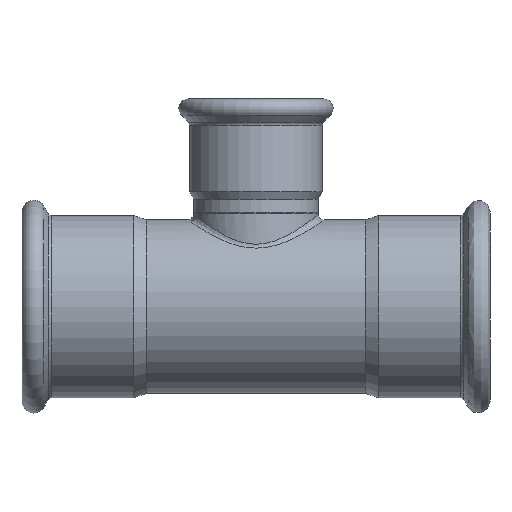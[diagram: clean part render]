
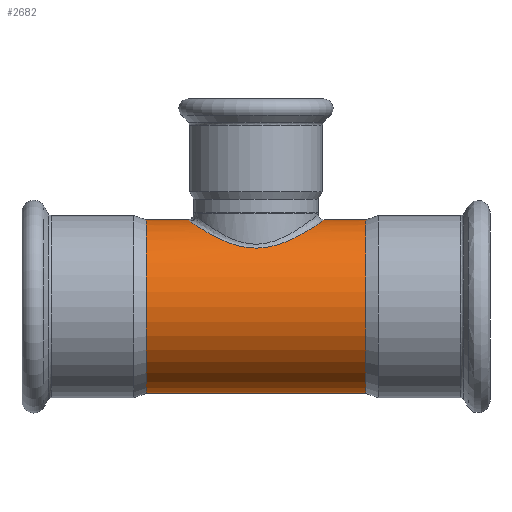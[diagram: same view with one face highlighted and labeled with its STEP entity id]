
A CAD part, front view. The second image highlights one B-rep face of the part: STEP entity #2682.
In plain terms, the highlighted cylindrical face has radius 44.45 mm (diameter 88.9 mm), a full revolution.
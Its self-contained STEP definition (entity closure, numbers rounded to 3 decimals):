
#2445=CARTESIAN_POINT('',(0.,32.787,30.013));
#2446=VERTEX_POINT('',#2445);
#2543=CARTESIAN_POINT('',(0.,32.787,30.013));
#2544=CARTESIAN_POINT('',(-1.024,32.787,30.013));
#2545=CARTESIAN_POINT('',(-2.389,32.731,30.075));
#2546=CARTESIAN_POINT('',(-4.249,32.552,30.268));
#2547=CARTESIAN_POINT('',(-5.921,32.333,30.503));
#2548=CARTESIAN_POINT('',(-8.554,31.843,31.019));
#2549=CARTESIAN_POINT('',(-11.887,30.911,31.958));
#2550=CARTESIAN_POINT('',(-15.138,29.617,33.163));
#2551=CARTESIAN_POINT('',(-17.938,28.196,34.378));
#2552=CARTESIAN_POINT('',(-20.06,26.898,35.4));
#2553=CARTESIAN_POINT('',(-22.329,25.297,36.569));
#2554=CARTESIAN_POINT('',(-24.213,23.726,37.61));
#2555=CARTESIAN_POINT('',(-25.948,22.027,38.618));
#2556=CARTESIAN_POINT('',(-27.596,20.228,39.605));
#2557=CARTESIAN_POINT('',(-29.48,17.797,40.777));
#2558=CARTESIAN_POINT('',(-30.845,15.549,41.66));
#2559=CARTESIAN_POINT('',(-31.704,13.901,42.224));
#2560=CARTESIAN_POINT('',(-32.247,12.781,42.583));
#2561=CARTESIAN_POINT('',(-33.163,10.611,43.195));
#2562=CARTESIAN_POINT('',(-33.889,8.342,43.687));
#2563=CARTESIAN_POINT('',(-34.385,6.175,44.027));
#2564=CARTESIAN_POINT('',(-34.611,4.923,44.182));
#2565=CARTESIAN_POINT('',(-34.901,2.868,44.381));
#2566=CARTESIAN_POINT('',(-35.03,0.789,44.471));
#2567=CARTESIAN_POINT('',(-34.969,-1.771,44.429));
#2568=CARTESIAN_POINT('',(-34.818,-3.523,44.324));
#2569=CARTESIAN_POINT('',(-34.605,-4.944,44.178));
#2570=CARTESIAN_POINT('',(-34.378,-6.196,44.022));
#2571=CARTESIAN_POINT('',(-34.069,-7.592,43.81));
#2572=CARTESIAN_POINT('',(-33.428,-9.827,43.374));
#2573=CARTESIAN_POINT('',(-32.61,-11.997,42.823));
#2574=CARTESIAN_POINT('',(-31.459,-14.441,42.061));
#2575=CARTESIAN_POINT('',(-30.032,-16.949,41.131));
#2576=CARTESIAN_POINT('',(-28.151,-19.57,39.944));
#2577=CARTESIAN_POINT('',(-26.351,-21.617,38.855));
#2578=CARTESIAN_POINT('',(-24.907,-23.053,38.012));
#2579=CARTESIAN_POINT('',(-23.355,-24.456,37.133));
#2580=CARTESIAN_POINT('',(-21.648,-25.8,36.211));
#2581=CARTESIAN_POINT('',(-19.609,-27.185,35.178));
#2582=CARTESIAN_POINT('',(-17.651,-28.345,34.251));
#2583=CARTESIAN_POINT('',(-15.41,-29.471,33.286));
#2584=CARTESIAN_POINT('',(-13.072,-30.446,32.393));
#2585=CARTESIAN_POINT('',(-10.619,-31.274,31.593));
#2586=CARTESIAN_POINT('',(-8.393,-31.852,31.006));
#2587=CARTESIAN_POINT('',(-6.65,-32.198,30.645));
#2588=CARTESIAN_POINT('',(-3.995,-32.626,30.191));
#2589=CARTESIAN_POINT('',(-0.014,-32.922,29.864));
#2590=CARTESIAN_POINT('',(4.653,-32.579,30.244));
#2591=CARTESIAN_POINT('',(8.156,-31.917,30.941));
#2592=CARTESIAN_POINT('',(11.563,-31.019,31.85));
#2593=CARTESIAN_POINT('',(14.692,-29.833,32.976));
#2594=CARTESIAN_POINT('',(17.666,-28.337,34.258));
#2595=CARTESIAN_POINT('',(20.509,-26.65,35.605));
#2596=CARTESIAN_POINT('',(23.141,-24.686,37.004));
#2597=CARTESIAN_POINT('',(25.532,-22.467,38.371));
#2598=CARTESIAN_POINT('',(26.916,-20.984,39.196));
#2599=CARTESIAN_POINT('',(28.479,-19.113,40.151));
#2600=CARTESIAN_POINT('',(29.917,-17.109,41.058));
#2601=CARTESIAN_POINT('',(31.372,-14.605,42.003));
#2602=CARTESIAN_POINT('',(32.362,-12.55,42.659));
#2603=CARTESIAN_POINT('',(33.292,-10.221,43.282));
#2604=CARTESIAN_POINT('',(34.292,-6.986,43.962));
#2605=CARTESIAN_POINT('',(35.035,-2.573,44.474));
#2606=CARTESIAN_POINT('',(35.036,2.143,44.475));
#2607=CARTESIAN_POINT('',(34.539,5.518,44.132));
#2608=CARTESIAN_POINT('',(33.775,8.814,43.61));
#2609=CARTESIAN_POINT('',(32.813,11.619,42.957));
#2610=CARTESIAN_POINT('',(31.541,14.253,42.115));
#2611=CARTESIAN_POINT('',(30.735,15.7,41.59));
#2612=CARTESIAN_POINT('',(29.456,17.804,40.765));
#2613=CARTESIAN_POINT('',(26.757,21.421,39.07));
#2614=CARTESIAN_POINT('',(23.284,24.627,37.06));
#2615=CARTESIAN_POINT('',(20.284,26.739,35.516));
#2616=CARTESIAN_POINT('',(18.197,28.051,34.498));
#2617=CARTESIAN_POINT('',(15.421,29.506,33.267));
#2618=CARTESIAN_POINT('',(11.864,30.918,31.951));
#2619=CARTESIAN_POINT('',(8.08,31.975,30.886));
#2620=CARTESIAN_POINT('',(4.098,32.636,30.179));
#2621=CARTESIAN_POINT('',(1.365,32.787,30.013));
#2622=CARTESIAN_POINT('',(0.,32.787,30.013));
#2623=CARTESIAN_POINT('',(0.,32.787,30.013));
#2624=CARTESIAN_POINT('',(0.,32.787,30.013));
#2625=CARTESIAN_POINT('',(0.,32.787,30.013));
#2626=B_SPLINE_CURVE_WITH_KNOTS('',3,(#2543,#2544,#2545,#2546,#2547,#2548,#2549,#2550,#2551,#2552,#2553,#2554,#2555,#2556,#2557,#2558,#2559,#2560,#2561,#2562,#2563,#2564,#2565,#2566,#2567,#2568,#2569,#2570,#2571,#2572,#2573,#2574,#2575,#2576,#2577,#2578,#2579,#2580,#2581,#2582,#2583,#2584,#2585,#2586,#2587,#2588,#2589,#2590,#2591,#2592,#2593,#2594,#2595,#2596,#2597,#2598,#2599,#2600,#2601,#2602,#2603,#2604,#2605,#2606,#2607,#2608,#2609,#2610,#2611,#2612,#2613,#2614,#2615,#2616,#2617,#2618,#2619,#2620,#2621,#2622,#2623,#2624,#2625),.UNSPECIFIED.,.T.,.U.,(4,1,1,1,1,1,1,1,1,1,1,1,1,1,1,1,1,1,1,1,1,1,1,1,1,1,1,1,1,1,1,1,1,1,1,1,1,1,1,1,1,1,1,1,1,1,1,1,1,1,1,1,1,1,1,1,1,1,1,1,1,1,1,1,1,1,1,1,1,1,1,1,1,1,1,1,1,3,4),(-20.281,-20.01,-19.919,-19.783,-19.557,-19.195,-18.833,-18.561,-18.289,-18.108,-17.746,-17.565,-17.384,-17.022,-16.66,-16.614,-16.479,-16.298,-15.935,-15.8,-15.664,-15.573,-15.211,-15.075,-14.849,-14.713,-14.668,-14.487,-14.306,-14.004,-13.823,-13.521,-13.159,-12.877,-12.716,-12.555,-12.253,-12.072,-11.831,-11.589,-11.348,-11.106,-10.865,-10.714,-10.624,-10.141,-9.658,-9.386,-9.175,-8.692,-8.451,-8.209,-7.726,-7.485,-7.243,-7.123,-6.76,-6.519,-6.278,-6.096,-5.795,-5.312,-4.829,-4.467,-4.346,-3.863,-3.622,-3.501,-3.38,-2.897,-2.173,-1.992,-1.811,-1.449,-1.087,-0.724,-0.362,0.0,0.),.UNSPECIFIED.);
#2627=EDGE_CURVE('',#2446,#2446,#2626,.T.);
#2652=CARTESIAN_POINT('',(-28.164,0.,0.0));
#2653=DIRECTION('',(1.0,0.,0.0));
#2654=DIRECTION('',(0.0,1.0,0.0));
#2655=AXIS2_PLACEMENT_3D('',#2652,#2653,#2654);
#2656=CYLINDRICAL_SURFACE('',#2655,44.45);
#2657=CARTESIAN_POINT('',(-56.328,44.45,0.0));
#2658=VERTEX_POINT('',#2657);
#2659=CARTESIAN_POINT('',(-56.328,0.,0.0));
#2660=DIRECTION('',(1.0,0.0,0.0));
#2661=DIRECTION('',(0.0,1.0,0.0));
#2662=AXIS2_PLACEMENT_3D('',#2659,#2660,#2661);
#2663=CIRCLE('',#2662,44.45);
#2664=EDGE_CURVE('',#2658,#2658,#2663,.T.);
#2665=ORIENTED_EDGE('',*,*,#2664,.T.);
#2666=EDGE_LOOP('',(#2665));
#2667=FACE_OUTER_BOUND('',#2666,.T.);
#2668=CARTESIAN_POINT('',(56.328,44.45,0.0));
#2669=VERTEX_POINT('',#2668);
#2670=CARTESIAN_POINT('',(56.328,0.,0.0));
#2671=DIRECTION('',(1.0,0.0,0.0));
#2672=DIRECTION('',(0.0,1.0,0.0));
#2673=AXIS2_PLACEMENT_3D('',#2670,#2671,#2672);
#2674=CIRCLE('',#2673,44.45);
#2675=EDGE_CURVE('',#2669,#2669,#2674,.T.);
#2676=ORIENTED_EDGE('',*,*,#2675,.F.);
#2677=EDGE_LOOP('',(#2676));
#2678=FACE_BOUND('',#2677,.T.);
#2679=ORIENTED_EDGE('',*,*,#2627,.F.);
#2680=EDGE_LOOP('',(#2679));
#2681=FACE_BOUND('',#2680,.T.);
#2682=ADVANCED_FACE('',(#2667,#2678,#2681),#2656,.T.);
